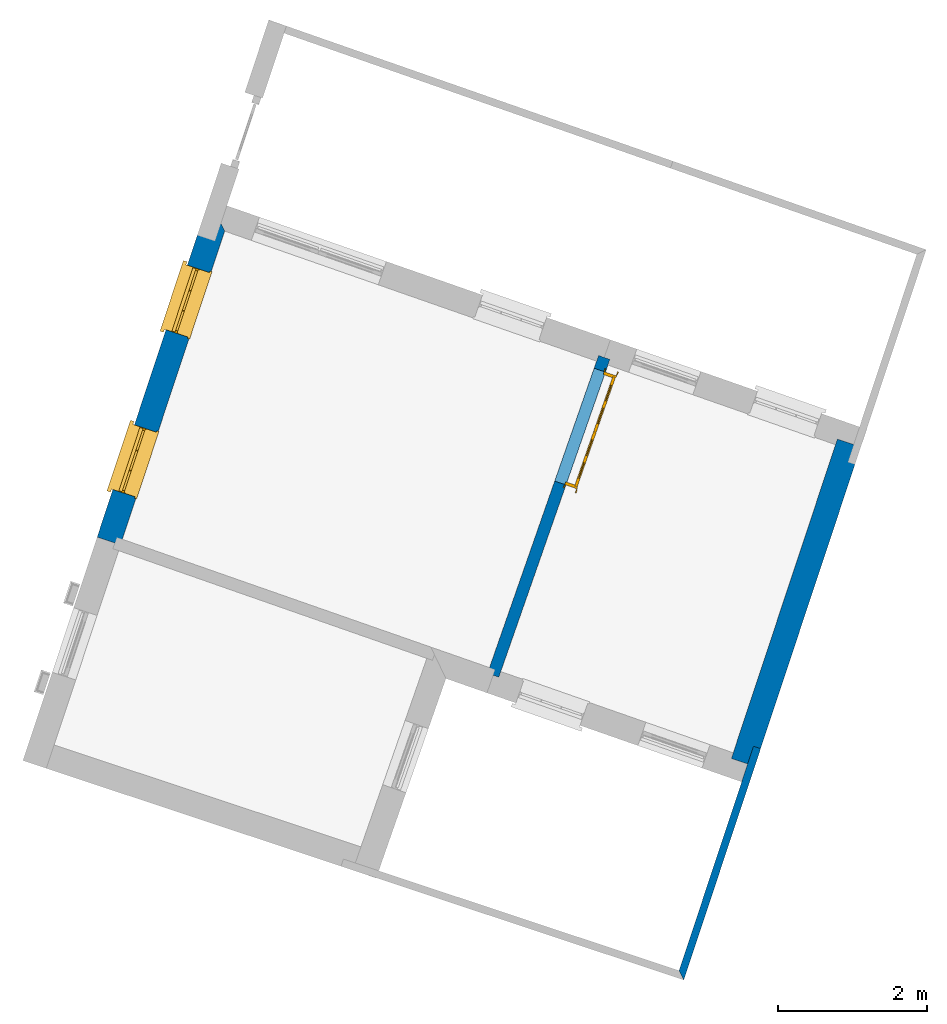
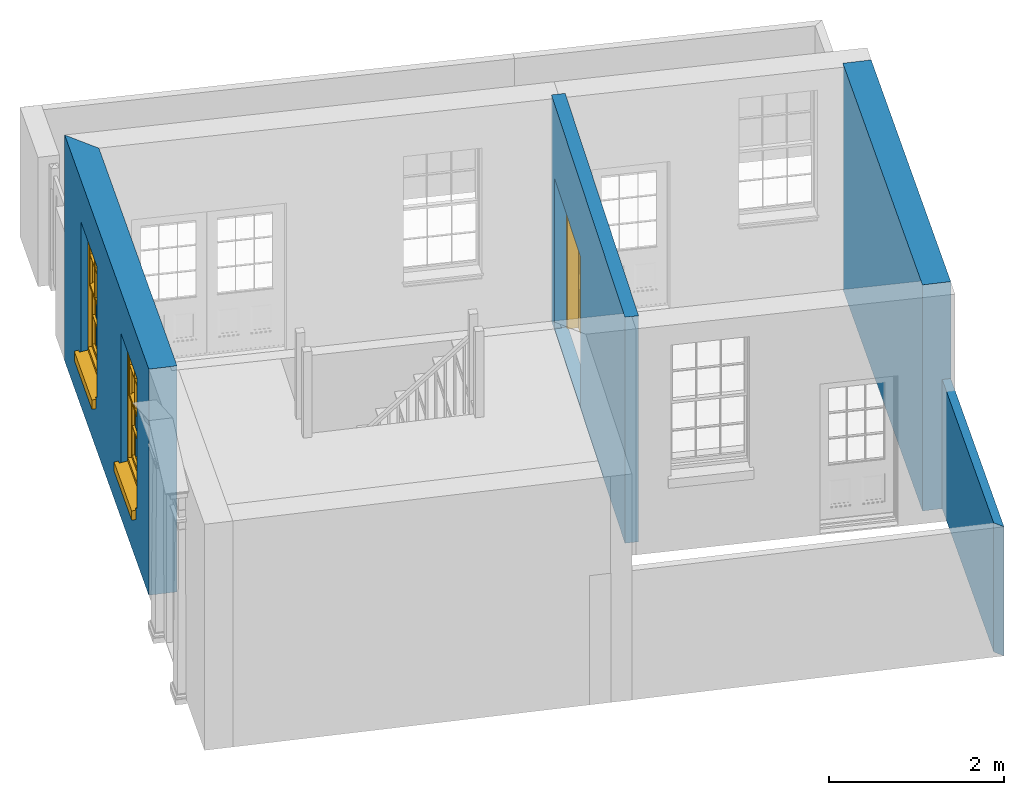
# One storey, part 4 of 10: 4 walls, 2 windows, 1 door, 3 openings.
"""IFC4 building model written with IfcOpenShell, lengths in metres."""

from ifc_helpers import new_model, si_unit, frame, origin, origin_with_axes, place, context, subcontext, project, spatial, polyline, outline, extrude, faceted_brep, source, transform, mapped, material, layer, layer_set, layer_usage, type_object, type_shapes, element, fill, save


model = new_model("IFC4")

# Units and contexts
model_context = context("Model", 3, world=origin_with_axes())
body_context = subcontext(model_context, "Body", "Model", "MODEL_VIEW")
ifc_project = project(units=[si_unit("PLANEANGLEUNIT", "RADIAN"), si_unit("MASSUNIT", "GRAM", prefix="KILO"), si_unit("FORCEUNIT", "NEWTON", prefix="KILO"), si_unit("LENGTHUNIT", "METRE"), si_unit("AREAUNIT", "SQUARE_METRE"), si_unit("VOLUMEUNIT", "CUBIC_METRE")], contexts=[model_context, model_context])

# Sites, building, storey
site_1_placement = place(None, origin_with_axes())
site_1 = spatial("IfcSite", under=ifc_project, at=site_1_placement, Name="Tamar")
site_2_placement = place(site_1_placement, origin_with_axes())
site_2 = spatial("IfcSite", under=site_1, at=site_2_placement, Name="Site plot-15", CompositionType="ELEMENT")
building_placement = place(None, origin_with_axes())
building = spatial("IfcBuilding", under=site_2, at=building_placement, Name="Building plot-15", CompositionType="ELEMENT")
storey_placement = place(None, frame((0.0, 0.0, 26.8), z_axis=(0.0, 0.0, 1.0), x_axis=(1.0, 0.0, 0.0)))
storey = spatial("IfcBuildingStorey", under=building, at=storey_placement, Name="plot-15 0", CompositionType="ELEMENT", Elevation=26.8)

# Wall, openings, windows
ifc_material_1 = material(Name="Masonry")
ifc_layer_1 = layer(ifc_material_1, 0.33, ventilated=False)
ifc_layer_set_1 = layer_set([ifc_layer_1], Name="exterior_0.08_0.25")
ifc_layer_usage_1 = layer_usage(ifc_layer_set_1, "AXIS2", "POSITIVE", -0.25)
wall_type_1 = type_object("IfcWallType", Name="exterior_0.08_0.25", PredefinedType="SOLIDWALL", material=ifc_layer_set_1)
wall_1_placement = place(storey_placement, frame((258.652212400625, 311.019566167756, 0.0), z_axis=(0.0, 0.0, 1.0), x_axis=(-0.315038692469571, -0.949078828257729, 0.0)))
wall_1 = element("IfcWall", 1, at=wall_1_placement, inside=storey, type_object=wall_type_1, material=ifc_layer_usage_1, Name="exterior", context=body_context, shape_type="SweptSolid", body=[
    extrude(outline(polyline([(0.0812747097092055, 0.0799999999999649), (-0.253983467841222, -0.25000000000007), (4.50469940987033, -0.250000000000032), (4.50469940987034, 0.079999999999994), (0.0812747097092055, 0.0799999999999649)])), origin_with_axes(), (0.0, 0.0, 1.0), 3.15),
])
opening_1_placement = place(wall_1_placement, frame((0.671174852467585, 0.0, 0.75)))
opening_1 = element("IfcOpeningElement", 2, at=opening_1_placement, cuts=wall_1, Name="My Opening", ObjectType="Opening", context=body_context, shape_type="SweptSolid", body=[
    extrude(outline(polyline([(0.0, -0.269999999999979), (0.910000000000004, -0.26999999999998), (0.909999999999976, 1.10000000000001), (-2.74225087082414e-14, 1.10000000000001), (0.0, -0.269999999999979)])), origin_with_axes(), (0.0, 0.0, 1.0), 1.82),
])
opening_2_placement = place(wall_1_placement, frame((2.92352455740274, 0.0, 0.75)))
opening_2 = element("IfcOpeningElement", 3, at=opening_2_placement, cuts=wall_1, Name="My Opening", ObjectType="Opening", context=body_context, shape_type="SweptSolid", body=[
    extrude(outline(polyline([(0.0, -0.270000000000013), (0.910000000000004, -0.270000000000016), (0.909999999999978, 1.09999999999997), (-2.70894418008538e-14, 1.09999999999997), (0.0, -0.270000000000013)])), origin_with_axes(), (0.0, 0.0, 1.0), 1.82),
])
window_type = type_object("IfcWindowType", Name="sash_big", PartitioningType="DOUBLE_PANEL_HORIZONTAL", PredefinedType="NOTDEFINED")
shared_shape_1 = source(origin(), body_context, "Body", "Brep", [
    faceted_brep([(0.033125, 0.145, 0.975209), (0.01, 0.145, 0.975209), (0.033125, 0.145, 1.376042), (0.876875, 0.145, 0.975209), (0.876875, 0.145, 1.376042), (0.9, 0.145, 0.975209), (0.876875, 0.145, 1.386042), (0.876875, 0.145, 1.786875), (0.9, 0.145, 1.81), (0.033125, 0.145, 1.786875), (0.033125, 0.145, 1.386042), (0.01, 0.145, 1.81), (0.876875, 0.115, 1.376042), (0.876875, 0.115, 0.975209), (0.9, 0.115, 0.937083), (0.033125, 0.115, 1.786875), (0.01, 0.115, 1.81), (0.033125, 0.115, 1.386042), (0.01, 0.115, 0.937083), (0.033125, 0.115, 0.975209), (0.033125, 0.115, 1.376042), (0.876875, 0.115, 1.786875), (0.876875, 0.115, 1.386042), (0.9, 0.115, 1.81), (0.033125, 0.145, 0.937083), (0.01, 0.145, 0.937083), (0.033125, 0.145, 0.53625), (0.876875, 0.145, 0.937083), (0.876875, 0.145, 0.53625), (0.9, 0.145, 0.937083), (0.876875, 0.145, 0.52625), (0.876875, 0.145, 0.125417), (0.9, 0.145, 0.077167), (0.033125, 0.145, 0.125417), (0.033125, 0.145, 0.52625), (0.01, 0.145, 0.077167), (-0.0425, 0.0, 0.01), (-0.0425, -0.05, 0.001667), (0.0, 0.0, 0.01), (0.9525, 0.0, 0.01), (0.91, 0.0, 0.01), (0.9525, -0.05, 0.001667), (-0.02, 0.33, 0.077167), (0.0, 0.33, 0.077167), (-0.02, 0.36, 0.077167), (0.0, 0.19, 0.077167), (0.01, 0.19, 0.077167), (0.91, 0.19, 0.077167), (0.91, 0.33, 0.077167), (0.9, 0.19, 0.077167), (0.93, 0.33, 0.077167), (0.93, 0.36, 0.077167), (0.01, 0.175, 0.975209), (0.9, 0.175, 0.975209), (0.876875, 0.175, 0.125417), (0.876875, 0.175, 0.52625), (0.9, 0.175, 0.077167), (0.876875, 0.175, 0.53625), (0.876875, 0.175, 0.937083), (0.033125, 0.175, 0.125417), (0.01, 0.175, 0.077167), (0.033125, 0.175, 0.52625), (0.033125, 0.175, 0.937083), (0.033125, 0.175, 0.53625), (-0.02, 0.33, 0.052167), (-0.02, 0.36, 0.052167), (0.93, 0.36, 0.052167), (0.93, 0.33, 0.052167), (0.91, 0.33, 0.052167), (0.0, 0.33, 0.052167), (0.91, 0.1, 0.026667), (0.0, 0.1, 0.026667), (-0.0425, -0.05, -0.123333), (0.9525, -0.05, -0.123333), (-0.0425, 0.0, -0.123333), (0.9525, 0.0, -0.123333), (0.01, 0.19, 1.81), (0.9, 0.19, 1.81), (0.0, 0.19, 1.82), (0.91, 0.19, 1.82), (0.01, 0.1, 0.077167), (0.9, 0.1, 0.077167), (0.592292, 0.145, 0.125417), (0.592292, 0.175, 0.125417), (0.317708, 0.175, 0.125417), (0.317708, 0.145, 0.125417), (0.592292, 0.145, 0.53625), (0.317708, 0.145, 0.53625), (0.317708, 0.145, 0.52625), (0.592292, 0.145, 0.52625), (0.592292, 0.175, 0.53625), (0.317708, 0.175, 0.53625), (0.592292, 0.115, 1.386042), (0.592292, 0.145, 1.386042), (0.317708, 0.145, 1.386042), (0.317708, 0.115, 1.386042), (0.317708, 0.115, 1.376042), (0.592292, 0.115, 1.376042), (0.317708, 0.145, 1.376042), (0.592292, 0.145, 1.376042), (0.602292, 0.115, 1.376042), (0.592292, 0.115, 0.975209), (0.602292, 0.115, 0.975209), (0.602292, 0.145, 0.975209), (0.592292, 0.145, 0.975209), (0.602292, 0.145, 1.376042), (0.602292, 0.175, 0.53625), (0.602292, 0.145, 0.53625), (0.317708, 0.175, 0.52625), (0.307708, 0.175, 0.125417), (0.307708, 0.175, 0.52625), (0.602292, 0.175, 0.52625), (0.602292, 0.175, 0.125417), (0.592292, 0.175, 0.52625), (0.307708, 0.175, 0.53625), (0.317708, 0.175, 0.937083), (0.307708, 0.175, 0.937083), (0.602292, 0.175, 0.937083), (0.592292, 0.175, 0.937083), (0.307708, 0.145, 0.52625), (0.307708, 0.145, 0.125417), (0.307708, 0.145, 0.53625), (0.307708, 0.145, 0.937083), (0.592292, 0.145, 0.937083), (0.317708, 0.145, 0.937083), (0.602292, 0.145, 0.937083), (0.602292, 0.145, 0.52625), (0.602292, 0.145, 0.125417), (0.307708, 0.115, 1.386042), (0.307708, 0.115, 1.376042), (0.307708, 0.115, 0.975209), (0.317708, 0.115, 0.975209), (0.317708, 0.115, 1.786875), (0.307708, 0.115, 1.786875), (0.602292, 0.115, 1.786875), (0.592292, 0.115, 1.786875), (0.602292, 0.115, 1.386042), (0.602292, 0.145, 1.386042), (0.307708, 0.145, 1.386042), (0.307708, 0.145, 1.786875), (0.317708, 0.145, 1.786875), (0.592292, 0.145, 1.786875), (0.602292, 0.145, 1.786875), (0.307708, 0.145, 1.376042), (0.317708, 0.145, 0.975209), (0.307708, 0.145, 0.975209), (0.91, 0.1, 1.82), (0.9, 0.1, 1.81), (0.01, 0.1, 1.81), (0.0, 0.1, 1.82), (0.91, 0.0, 0.0), (0.0, 0.0, 0.0), (0.91, 0.33, 0.0), (0.0, 0.33, 0.0)], [[[0, 1, 2]], [[3, 4, 5]], [[6, 7, 8]], [[9, 10, 11]], [[12, 13, 14]], [[15, 16, 17]], [[18, 19, 20]], [[21, 22, 23]], [[24, 25, 26]], [[27, 28, 29]], [[30, 31, 32]], [[33, 34, 35]], [[14, 27, 29]], [[25, 24, 18]], [[36, 37, 38]], [[39, 40, 41]], [[42, 43, 44]], [[45, 46, 43]], [[47, 48, 49]], [[50, 51, 48]], [[1, 0, 52]], [[5, 53, 3]], [[54, 55, 56]], [[57, 58, 53]], [[59, 60, 61]], [[62, 63, 52]], [[48, 43, 46, 49]], [[51, 44, 43, 48]], [[64, 42, 44, 65]], [[65, 44, 51, 66]], [[66, 51, 50, 67]], [[65, 66, 68, 69]], [[60, 56, 49, 46]], [[70, 71, 38, 40]], [[37, 41, 40, 38]], [[37, 72, 73, 41]], [[74, 75, 73, 72]], [[8, 11, 76, 77]], [[76, 78, 79, 77]], [[32, 35, 80, 81]], [[81, 80, 71, 70]], [[82, 83, 84, 85]], [[86, 87, 88, 89]], [[86, 90, 91, 87]], [[92, 93, 94, 95]], [[92, 95, 96, 97]], [[96, 98, 99, 97]], [[100, 97, 101, 102]], [[103, 104, 99, 105]], [[97, 99, 104, 101]], [[102, 103, 105, 100]], [[28, 57, 106, 107]], [[108, 84, 109, 110]], [[111, 112, 83, 113]], [[114, 110, 61, 63]], [[90, 113, 108, 91]], [[115, 91, 114, 116]], [[117, 106, 90, 118]], [[111, 106, 57, 55]], [[119, 110, 109, 120]], [[34, 61, 110, 119]], [[89, 113, 83, 82]], [[88, 108, 113, 89]], [[85, 84, 108, 88]], [[121, 114, 63, 26]], [[122, 116, 114, 121]], [[123, 118, 90, 86]], [[87, 91, 115, 124]], [[107, 106, 117, 125]], [[126, 111, 55, 30]], [[127, 112, 111, 126]], [[126, 30, 28, 107]], [[88, 119, 120, 85]], [[126, 89, 82, 127]], [[125, 123, 86, 107]], [[121, 26, 34, 119]], [[124, 122, 121, 87]], [[128, 17, 20, 129]], [[96, 129, 130, 131]], [[132, 133, 128, 95]], [[134, 135, 92, 136]], [[100, 12, 22, 136]], [[137, 6, 4, 105]], [[94, 138, 139, 140]], [[137, 93, 141, 142]], [[99, 98, 94, 93]], [[143, 2, 10, 138]], [[144, 145, 143, 98]], [[129, 143, 145, 130]], [[20, 2, 143, 129]], [[131, 144, 98, 96]], [[128, 138, 10, 17]], [[133, 139, 138, 128]], [[135, 141, 93, 92]], [[95, 94, 140, 132]], [[22, 6, 137, 136]], [[136, 137, 142, 134]], [[100, 105, 4, 12]], [[107, 86, 89, 126]], [[106, 111, 113, 90]], [[91, 108, 110, 114]], [[87, 121, 119, 88]], [[97, 100, 136, 92]], [[129, 96, 95, 128]], [[98, 143, 138, 94]], [[105, 99, 93, 137]], [[131, 101, 104, 144]], [[124, 115, 118, 123]], [[132, 140, 141, 135]], [[120, 109, 59, 33]], [[15, 9, 139, 133]], [[134, 142, 7, 21]], [[31, 54, 112, 127]], [[36, 74, 72, 37]], [[39, 41, 73, 75]], [[18, 14, 101, 131]], [[23, 16, 132, 135]], [[83, 56, 60, 84]], [[52, 53, 118, 115]], [[53, 52, 144, 104]], [[11, 8, 141, 140]], [[14, 18, 124, 123]], [[2, 1, 11, 10]], [[8, 5, 4, 6]], [[57, 53, 56, 55]], [[60, 52, 63, 61]], [[26, 25, 35, 34]], [[32, 29, 28, 30]], [[14, 23, 22, 12]], [[18, 20, 17, 16]], [[19, 0, 2, 20]], [[17, 10, 9, 15]], [[12, 4, 3, 13]], [[21, 7, 6, 22]], [[27, 58, 57, 28]], [[30, 55, 54, 31]], [[33, 59, 61, 34]], [[26, 63, 62, 24]], [[5, 8, 77, 53]], [[76, 11, 1, 52]], [[46, 45, 78, 76]], [[49, 77, 79, 47]], [[70, 146, 147, 81]], [[71, 80, 148, 149]], [[19, 130, 145, 0]], [[102, 13, 3, 103]], [[116, 122, 24, 62]], [[29, 32, 81, 14]], [[80, 35, 25, 18]], [[60, 46, 76, 52]], [[77, 49, 56, 53]], [[23, 14, 81, 147]], [[16, 148, 80, 18]], [[35, 85, 120]], [[120, 33, 35]], [[127, 82, 32]], [[32, 31, 127]], [[32, 82, 85, 35]], [[102, 101, 14]], [[14, 13, 102]], [[18, 131, 130]], [[130, 19, 18]], [[134, 21, 23]], [[23, 135, 134]], [[16, 15, 133]], [[133, 132, 16]], [[11, 140, 139]], [[139, 9, 11]], [[142, 141, 8]], [[8, 7, 142]], [[23, 147, 148, 16]], [[146, 149, 148, 147]], [[52, 115, 116]], [[116, 62, 52]], [[118, 53, 117]], [[58, 117, 53]], [[27, 125, 117, 58]], [[56, 83, 112]], [[112, 54, 56]], [[109, 84, 60]], [[60, 59, 109]], [[125, 27, 14]], [[14, 123, 125]], [[122, 124, 18]], [[18, 24, 122]], [[145, 144, 52]], [[52, 0, 145]], [[103, 3, 53]], [[53, 104, 103]], [[79, 78, 149, 146]], [[78, 45, 71, 149]], [[146, 70, 47, 79]], [[150, 75, 74, 151]], [[68, 66, 67]], [[48, 68, 67, 50]], [[69, 64, 65]], [[42, 64, 69, 43]], [[69, 68, 152, 153]], [[70, 68, 48, 47]], [[150, 152, 68, 70]], [[43, 69, 71, 45]], [[69, 153, 151, 71]], [[152, 150, 151, 153]], [[38, 151, 74, 36]], [[71, 151, 38]], [[39, 75, 150, 40]], [[40, 150, 70]]]),
])
type_shapes(window_type, [shared_shape_1])
window_1_placement = place(storey_placement, frame((258.184515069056, 310.467628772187, 0.75), z_axis=(0.0, 0.0, 1.0), x_axis=(-0.286685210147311, -0.863661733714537, 0.0)))
window_1 = element("IfcWindow", 4, at=window_1_placement, inside=storey, type_object=window_type, Name="living street window", OverallHeight=1.82, OverallWidth=0.91, context=body_context, shape_type="MappedRepresentation", body=[
    mapped(shared_shape_1, transform((0.0, 0.0, 0.0), scale=1.0)),
])
fill(opening_1, window_1)
window_2_placement = place(storey_placement, frame((257.474937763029, 308.3299713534, 0.75), z_axis=(0.0, 0.0, 1.0), x_axis=(-0.286685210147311, -0.863661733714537, 0.0)))
window_2 = element("IfcWindow", 5, at=window_2_placement, inside=storey, type_object=window_type, Name="living street window", OverallHeight=1.82, OverallWidth=0.91, context=body_context, shape_type="MappedRepresentation", body=[
    mapped(shared_shape_1, transform((0.0, 0.0, 0.0), scale=1.0)),
])
fill(opening_2, window_2)

# Wall
ifc_material_2 = material(Name="Masonry")
ifc_layer_2 = layer(ifc_material_2, 0.33, ventilated=False)
ifc_layer_set_2 = layer_set([ifc_layer_2], Name="party_0.08_0.25")
ifc_layer_usage_2 = layer_usage(ifc_layer_set_2, "AXIS2", "POSITIVE", -0.25)
wall_type_2 = type_object("IfcWallType", Name="party_0.08_0.25", PredefinedType="SOLIDWALL", material=ifc_layer_set_2)
wall_2_placement = place(storey_placement, frame((265.557197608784, 303.834257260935, 0.0), z_axis=(0.0, 0.0, 1.0), x_axis=(0.315038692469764, 0.949078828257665, 0.0)))
element("IfcWall", 6, at=wall_2_placement, inside=storey, type_object=wall_type_2, material=ifc_layer_usage_2, Name="party", context=body_context, shape_type="SweptSolid", body=[
    extrude(outline(polyline([(-2.19153448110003e-14, 0.0799999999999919), (1.68351869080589e-14, -0.249999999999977), (4.50469940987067, -0.249999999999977), (4.50469940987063, 0.0799999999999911), (-2.19153448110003e-14, 0.0799999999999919)])), origin_with_axes(), (0.0, 0.0, 1.0), 3.15),
])

# Wall, opening, door
ifc_material_3 = material(Name="Masonry")
ifc_layer_3 = layer(ifc_material_3, 0.16, ventilated=False)
ifc_layer_set_3 = layer_set([ifc_layer_3], Name="interior_0.08_0.08")
ifc_layer_usage_3 = layer_usage(ifc_layer_set_3, "AXIS2", "POSITIVE", -0.08)
wall_type_3 = type_object("IfcWallType", Name="interior_0.08_0.08", PredefinedType="SOLIDWALL", material=ifc_layer_set_3)
wall_3_placement = place(storey_placement, frame((263.78081158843, 309.226685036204, 0.0), z_axis=(0.0, 0.0, 1.0), x_axis=(-0.330001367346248, -0.943980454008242, 0.0)))
wall_3 = element("IfcWall", 7, at=wall_3_placement, inside=storey, type_object=wall_type_3, material=ifc_layer_usage_3, Name="interior", context=body_context, shape_type="SweptSolid", body=[
    extrude(outline(polyline([(-1.07438910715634e-14, 0.0799999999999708), (1.07340938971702e-14, -0.0799999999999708), (4.50413660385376, -0.0799999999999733), (4.50413660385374, 0.0799999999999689), (-1.07438910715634e-14, 0.0799999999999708)])), origin_with_axes(), (0.0, 0.0, 1.0), 3.15),
])
opening_3_placement = place(wall_3_placement, frame((0.179999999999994, 0.0, 0.0199999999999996)))
opening_3 = element("IfcOpeningElement", 8, at=opening_3_placement, cuts=wall_3, Name="My Opening", ObjectType="Opening", context=body_context, shape_type="SweptSolid", body=[
    extrude(outline(polyline([(0.0, -0.100000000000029), (1.59999999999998, -0.10000000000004), (1.60000000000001, 1.10000000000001), (2.9920510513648e-14, 1.10000000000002), (0.0, -0.100000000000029)])), origin_with_axes(), (0.0, 0.0, 1.0), 2.1),
])
door_type = type_object("IfcDoorType", Name="door_inside_double", OperationType="SINGLE_SWING_LEFT", PredefinedType="NOTDEFINED")
shared_shape_2 = source(origin(), body_context, "Body", "Brep", [
    faceted_brep([(0.14, 0.307, 1.895), (0.14, 0.307, 0.82), (0.363, 0.307, 0.82), (0.363, 0.307, 1.895), (0.14, 0.292, 1.895), (0.14, 0.292, 0.82), (0.363, 0.292, 0.82), (0.363, 0.292, 1.895), (0.027, 0.292, 1.895), (0.027, 0.292, 0.82), (0.363, 0.292, 0.62), (0.14, 0.292, 0.62), (0.463, 0.292, 0.82), (0.463, 0.292, 1.895), (0.363, 0.292, 2.073), (0.14, 0.292, 2.073), (0.027, 0.292, 2.073), (0.027, 0.33, 1.895), (0.027, 0.33, 0.82), (0.027, 0.292, 0.62), (0.463, 0.292, 0.62), (0.14, 0.307, 0.62), (0.363, 0.307, 0.62), (0.463, 0.307, 0.82), (0.463, 0.307, 1.895), (0.463, 0.292, 2.073), (0.14, 0.33, 2.073), (0.363, 0.33, 2.073), (0.027, 0.33, 2.073), (0.14, 0.33, 1.895), (0.14, 0.33, 0.82), (0.027, 0.33, 0.62), (0.027, 0.292, 0.225), (0.14, 0.292, 0.225), (0.363, 0.292, 0.225), (0.463, 0.292, 0.225), (0.686, 0.292, 0.62), (0.686, 0.292, 0.82), (0.14, 0.307, 0.225), (0.363, 0.307, 0.225), (0.686, 0.307, 0.82), (0.686, 0.307, 1.895), (0.686, 0.292, 1.895), (0.686, 0.292, 2.073), (0.463, 0.33, 2.073), (0.363, 0.33, 1.895), (0.14, 0.315, 1.895), (0.14, 0.315, 0.82), (0.14, 0.33, 0.62), (0.027, 0.33, 0.225), (0.027, 0.292, 0.0), (0.14, 0.292, 0.0), (0.363, 0.292, 0.0), (0.463, 0.292, 0.0), (0.463, 0.307, 0.225), (0.463, 0.307, 0.62), (0.686, 0.307, 0.62), (0.799, 0.292, 0.62), (0.799, 0.292, 0.82), (0.799, 0.292, 1.895), (0.799, 0.292, 2.073), (0.686, 0.33, 2.073), (0.463, 0.33, 1.895), (0.363, 0.315, 1.895), (0.363, 0.315, 0.82), (0.363, 0.33, 0.82), (0.363, 0.33, 0.62), (0.14, 0.33, 0.225), (0.027, 0.33, 0.0), (0.14, 0.33, 0.0), (0.363, 0.33, 0.0), (0.463, 0.33, 0.0), (0.686, 0.292, 0.0), (0.686, 0.292, 0.225), (0.686, 0.307, 0.225), (0.799, 0.292, 0.225), (0.799, 0.33, 0.62), (0.799, 0.33, 0.82), (0.799, 0.33, 1.895), (0.799, 0.33, 2.073), (0.686, 0.33, 1.895), (0.463, 0.33, 0.82), (0.463, 0.33, 0.62), (0.363, 0.315, 0.62), (0.14, 0.315, 0.62), (0.14, 0.315, 0.225), (0.363, 0.33, 0.225), (0.463, 0.33, 0.225), (0.686, 0.33, 0.0), (0.799, 0.292, 0.0), (0.799, 0.33, 0.225), (0.686, 0.33, 0.62), (0.686, 0.33, 0.82), (0.686, 0.315, 1.895), (0.463, 0.315, 1.895), (0.463, 0.315, 0.82), (0.363, 0.315, 0.225), (0.686, 0.33, 0.225), (0.799, 0.33, 0.0), (0.686, 0.315, 0.82), (0.463, 0.315, 0.62), (0.463, 0.315, 0.225), (0.686, 0.315, 0.62), (0.686, 0.315, 0.225), (1.46, 0.33, 1.895), (1.237, 0.33, 1.895), (1.237, 0.33, 2.073), (1.46, 0.33, 2.073), (1.46, 0.315, 1.895), (1.237, 0.315, 1.895), (1.137, 0.33, 1.895), (1.137, 0.33, 2.073), (1.237, 0.292, 2.073), (1.46, 0.292, 2.073), (1.573, 0.33, 1.895), (1.573, 0.33, 2.073), (1.46, 0.33, 0.82), (1.46, 0.315, 0.82), (1.237, 0.315, 0.82), (1.237, 0.33, 0.82), (1.137, 0.33, 0.82), (0.914, 0.33, 2.073), (0.914, 0.33, 1.895), (1.137, 0.292, 2.073), (1.237, 0.292, 1.895), (1.46, 0.292, 1.895), (1.573, 0.292, 2.073), (1.573, 0.33, 0.82), (1.573, 0.292, 1.895), (1.237, 0.33, 0.62), (1.137, 0.33, 0.62), (1.137, 0.315, 0.82), (1.137, 0.315, 1.895), (0.914, 0.292, 2.073), (0.914, 0.315, 1.895), (0.801, 0.33, 2.073), (0.801, 0.33, 1.895), (1.137, 0.292, 1.895), (1.237, 0.307, 1.895), (1.46, 0.307, 1.895), (1.573, 0.292, 0.82), (1.573, 0.33, 0.62), (1.46, 0.33, 0.62), (1.237, 0.33, 0.225), (1.137, 0.33, 0.225), (0.914, 0.33, 0.82), (0.914, 0.33, 0.62), (0.914, 0.315, 0.82), (0.801, 0.292, 2.073), (0.914, 0.292, 1.895), (0.801, 0.33, 0.82), (0.801, 0.292, 1.895), (1.137, 0.292, 0.82), (1.237, 0.292, 0.82), (1.237, 0.307, 0.82), (1.46, 0.307, 0.82), (1.46, 0.292, 0.82), (1.573, 0.292, 0.62), (1.573, 0.33, 0.225), (1.46, 0.33, 0.225), (1.46, 0.315, 0.62), (1.237, 0.315, 0.62), (1.237, 0.33, 0.0), (1.137, 0.33, 0.0), (1.137, 0.315, 0.225), (1.137, 0.315, 0.62), (1.237, 0.315, 0.225), (0.914, 0.315, 0.62), (0.801, 0.33, 0.62), (0.914, 0.307, 1.895), (1.137, 0.307, 1.895), (0.801, 0.292, 0.82), (1.137, 0.292, 0.62), (1.237, 0.292, 0.62), (1.137, 0.307, 0.82), (1.46, 0.292, 0.62), (1.573, 0.292, 0.225), (1.573, 0.33, 0.0), (1.46, 0.33, 0.0), (1.46, 0.315, 0.225), (1.237, 0.292, 0.0), (1.137, 0.292, 0.0), (0.914, 0.33, 0.225), (0.914, 0.33, 0.0), (0.914, 0.315, 0.225), (0.801, 0.33, 0.225), (0.801, 0.292, 0.62), (0.914, 0.292, 0.82), (0.914, 0.307, 0.82), (1.137, 0.292, 0.225), (1.237, 0.292, 0.225), (0.914, 0.292, 0.62), (1.46, 0.292, 0.225), (1.573, 0.292, 0.0), (1.46, 0.292, 0.0), (0.914, 0.292, 0.0), (0.801, 0.33, 0.0), (0.801, 0.292, 0.225), (1.237, 0.307, 0.225), (1.237, 0.307, 0.62), (1.137, 0.307, 0.62), (1.137, 0.307, 0.225), (1.46, 0.307, 0.62), (0.914, 0.307, 0.62), (1.46, 0.307, 0.225), (0.914, 0.292, 0.225), (0.801, 0.292, 0.0), (0.914, 0.307, 0.225), (0.02, 0.335, 0.0), (0.005, 0.34, 0.0), (0.005, 0.34, 2.095), (0.02, 0.335, 2.08), (0.02, 0.33, 0.0), (0.0, 0.335, 0.0), (0.0, 0.335, 2.1), (1.595, 0.34, 2.095), (1.58, 0.335, 2.08), (0.02, 0.33, 2.08), (0.0, 0.33, 0.0), (-0.032, 0.345, 0.0), (-0.032, 0.345, 2.132), (1.6, 0.335, 2.1), (1.595, 0.34, 0.0), (1.58, 0.335, 0.0), (1.58, 0.33, 2.08), (0.025, 0.33, 0.0), (0.025, 0.33, 2.075), (-0.04, 0.34, 0.0), (0.025, 0.29, 0.0), (0.0, 0.17, 0.0), (-0.04, 0.34, 2.14), (1.632, 0.345, 2.132), (1.6, 0.335, 0.0), (1.58, 0.33, 0.0), (1.575, 0.33, 2.075), (0.025, 0.29, 2.075), (-0.06, 0.33, 0.0), (0.035, 0.17, 0.0), (0.0, 0.17, 2.1), (0.0, 0.33, 2.1), (-0.04, 0.345, 0.0), (-0.04, 0.345, 2.14), (1.64, 0.34, 2.14), (1.632, 0.345, 0.0), (1.6, 0.33, 0.0), (1.575, 0.33, 0.0), (1.575, 0.29, 2.075), (0.04, 0.29, 0.0), (0.04, 0.29, 2.06), (-0.06, 0.345, 0.0), (-0.06, 0.33, 2.16), (0.015, 0.165, 0.0), (0.04, 0.17, 0.0), (-0.045, 0.17, 2.145), (-0.045, 0.17, 0.0), (1.6, 0.17, 2.1), (1.6, 0.33, 2.1), (-0.06, 0.345, 2.16), (1.64, 0.345, 2.14), (1.64, 0.34, 0.0), (1.6, 0.17, 0.0), (1.575, 0.29, 0.0), (1.56, 0.29, 2.06), (0.04, 0.17, 2.06), (1.66, 0.33, 2.16), (-0.017, 0.155, 0.0), (-0.025, 0.16, 0.0), (0.02, 0.16, 0.0), (0.035, 0.165, 0.0), (0.035, 0.17, 2.065), (1.645, 0.17, 2.145), (-0.045, 0.155, 2.145), (-0.045, 0.155, 0.0), (1.66, 0.345, 2.16), (1.64, 0.345, 0.0), (1.66, 0.33, 0.0), (1.565, 0.17, 0.0), (1.56, 0.29, 0.0), (1.56, 0.17, 2.06), (-0.017, 0.155, 2.117), (-0.025, 0.16, 2.125), (0.015, 0.165, 2.085), (0.02, 0.16, 2.08), (0.035, 0.165, 2.065), (1.565, 0.17, 2.065), (1.645, 0.17, 0.0), (1.645, 0.155, 2.145), (-0.025, 0.155, 0.0), (1.66, 0.345, 0.0), (1.585, 0.165, 0.0), (1.56, 0.17, 0.0), (1.617, 0.155, 2.117), (1.625, 0.16, 2.125), (-0.025, 0.155, 2.125), (1.585, 0.165, 2.085), (1.58, 0.16, 2.08), (1.565, 0.165, 2.065), (1.625, 0.16, 0.0), (1.645, 0.155, 0.0), (1.625, 0.155, 2.125), (1.617, 0.155, 0.0), (1.565, 0.165, 0.0), (1.58, 0.16, 0.0), (1.625, 0.155, 0.0)], [[[0, 1, 2, 3]], [[1, 0, 4, 5]], [[2, 1, 5, 6]], [[6, 7, 3, 2]], [[7, 4, 0, 3]], [[4, 8, 9, 5]], [[10, 6, 5, 11]], [[6, 12, 13, 7]], [[14, 15, 4, 7]], [[15, 16, 8, 4]], [[9, 8, 17, 18]], [[5, 9, 19, 11]], [[10, 20, 12, 6]], [[10, 11, 21, 22]], [[13, 12, 23, 24]], [[7, 13, 25, 14]], [[26, 15, 14, 27]], [[28, 16, 15, 26]], [[8, 16, 28, 17]], [[17, 29, 30, 18]], [[18, 31, 19, 9]], [[11, 19, 32, 33]], [[34, 35, 20, 10]], [[20, 36, 37, 12]], [[11, 33, 38, 21]], [[39, 22, 21, 38]], [[34, 10, 22, 39]], [[12, 37, 40, 23]], [[24, 23, 40, 41]], [[42, 13, 24, 41]], [[13, 42, 43, 25]], [[14, 25, 44, 27]], [[26, 27, 45, 29]], [[28, 26, 29, 17]], [[30, 29, 46, 47]], [[18, 30, 48, 31]], [[31, 49, 32, 19]], [[33, 32, 50, 51]], [[52, 53, 35, 34]], [[20, 35, 54, 55]], [[36, 20, 55, 56]], [[36, 57, 58, 37]], [[33, 34, 39, 38]], [[37, 42, 41, 40]], [[42, 59, 60, 43]], [[44, 25, 43, 61]], [[62, 45, 27, 44]], [[29, 45, 63, 46]], [[46, 63, 64, 47]], [[65, 30, 47, 64]], [[30, 65, 66, 48]], [[31, 48, 67, 49]], [[68, 50, 32, 49]], [[68, 69, 51, 50]], [[34, 33, 51, 52]], [[53, 52, 70, 71]], [[53, 72, 73, 35]], [[35, 73, 74, 54]], [[55, 54, 74, 56]], [[73, 36, 56, 74]], [[73, 75, 57, 36]], [[57, 76, 77, 58]], [[37, 58, 59, 42]], [[78, 79, 60, 59]], [[60, 79, 61, 43]], [[80, 62, 44, 61]], [[81, 65, 45, 62]], [[45, 65, 64, 63]], [[82, 66, 65, 81]], [[48, 66, 83, 84]], [[67, 48, 84, 85]], [[49, 67, 69, 68]], [[52, 51, 69, 70]], [[71, 70, 86, 87]], [[72, 53, 71, 88]], [[72, 89, 75, 73]], [[75, 90, 76, 57]], [[76, 91, 92, 77]], [[78, 59, 58, 77]], [[78, 80, 61, 79]], [[62, 80, 93, 94]], [[81, 62, 94, 95]], [[87, 86, 66, 82]], [[91, 82, 81, 92]], [[66, 86, 96, 83]], [[84, 83, 96, 85]], [[86, 67, 85, 96]], [[67, 86, 70, 69]], [[88, 71, 87, 97]], [[89, 72, 88, 98]], [[89, 98, 90, 75]], [[90, 97, 91, 76]], [[80, 78, 77, 92]], [[80, 92, 99, 93]], [[99, 95, 94, 93]], [[92, 81, 95, 99]], [[87, 82, 100, 101]], [[82, 91, 102, 100]], [[97, 87, 101, 103]], [[98, 88, 97, 90]], [[91, 97, 103, 102]], [[103, 101, 100, 102]], [[104, 105, 106, 107]], [[105, 104, 108, 109]], [[105, 110, 111, 106]], [[106, 112, 113, 107]], [[114, 104, 107, 115]], [[104, 116, 117, 108]], [[117, 118, 109, 108]], [[119, 105, 109, 118]], [[119, 120, 110, 105]], [[121, 111, 110, 122]], [[123, 112, 106, 111]], [[124, 125, 113, 112]], [[126, 115, 107, 113]], [[104, 114, 127, 116]], [[114, 115, 126, 128]], [[116, 119, 118, 117]], [[129, 130, 120, 119]], [[110, 120, 131, 132]], [[121, 133, 123, 111]], [[122, 110, 132, 134]], [[135, 121, 122, 136]], [[137, 124, 112, 123]], [[125, 124, 138, 139]], [[125, 128, 126, 113]], [[114, 128, 140, 127]], [[141, 142, 116, 127]], [[142, 129, 119, 116]], [[143, 144, 130, 129]], [[145, 120, 130, 146]], [[120, 145, 147, 131]], [[134, 132, 131, 147]], [[135, 148, 133, 121]], [[123, 133, 149, 137]], [[145, 122, 134, 147]], [[136, 122, 145, 150]], [[151, 148, 135, 136]], [[152, 153, 124, 137]], [[124, 153, 154, 138]], [[138, 154, 155, 139]], [[156, 125, 139, 155]], [[156, 140, 128, 125]], [[157, 141, 127, 140]], [[158, 159, 142, 141]], [[129, 142, 160, 161]], [[162, 163, 144, 143]], [[130, 144, 164, 165]], [[143, 129, 161, 166]], [[146, 130, 165, 167]], [[150, 145, 146, 168]], [[133, 148, 151, 149]], [[137, 149, 169, 170]], [[171, 151, 136, 150]], [[172, 173, 153, 152]], [[152, 137, 170, 174]], [[153, 156, 155, 154]], [[175, 157, 140, 156]], [[176, 158, 141, 157]], [[177, 178, 159, 158]], [[142, 159, 179, 160]], [[179, 166, 161, 160]], [[180, 181, 163, 162]], [[182, 144, 163, 183]], [[178, 162, 143, 159]], [[144, 182, 184, 164]], [[167, 165, 164, 184]], [[159, 143, 166, 179]], [[182, 146, 167, 184]], [[168, 146, 182, 185]], [[150, 168, 186, 171]], [[149, 151, 171, 187]], [[149, 187, 188, 169]], [[169, 188, 174, 170]], [[189, 190, 173, 172]], [[173, 175, 156, 153]], [[172, 152, 187, 191]], [[187, 152, 174, 188]], [[192, 176, 157, 175]], [[193, 177, 158, 176]], [[193, 194, 178, 177]], [[181, 180, 190, 189]], [[181, 195, 183, 163]], [[194, 180, 162, 178]], [[185, 182, 183, 196]], [[168, 185, 197, 186]], [[187, 171, 186, 191]], [[173, 190, 198, 199]], [[189, 172, 200, 201]], [[175, 173, 199, 202]], [[172, 191, 203, 200]], [[194, 193, 176, 192]], [[192, 175, 202, 204]], [[180, 194, 192, 190]], [[189, 205, 195, 181]], [[196, 183, 195, 206]], [[196, 206, 197, 185]], [[191, 186, 197, 205]], [[190, 192, 204, 198]], [[199, 198, 204, 202]], [[201, 200, 203, 207]], [[205, 189, 201, 207]], [[191, 205, 207, 203]], [[205, 197, 206, 195]], [[208, 209, 210, 211]], [[208, 212, 213, 209]], [[209, 213, 214, 210]], [[211, 210, 215, 216]], [[211, 217, 212, 208]], [[218, 213, 212]], [[213, 219, 220, 214]], [[210, 214, 221, 215]], [[216, 215, 222, 223]], [[217, 211, 216, 224]], [[225, 212, 217, 226]], [[219, 213, 218, 227]], [[218, 212, 228, 229]], [[219, 227, 230, 220]], [[214, 220, 231, 221]], [[215, 221, 232, 222]], [[222, 232, 233, 223]], [[224, 216, 223, 233]], [[226, 217, 224, 234]], [[225, 228, 212]], [[235, 228, 225, 226]], [[236, 227, 218]], [[237, 229, 228]], [[229, 238, 239, 218]], [[227, 240, 241, 230]], [[220, 230, 242, 231]], [[221, 231, 243, 232]], [[244, 233, 232]], [[234, 224, 233, 245]], [[246, 235, 226, 234]], [[247, 228, 235, 248]], [[240, 227, 236, 249]], [[239, 250, 236, 218]], [[251, 229, 237]], [[252, 237, 228, 247]], [[253, 238, 229, 254]], [[238, 255, 256, 239]], [[241, 240, 257]], [[230, 241, 258, 242]], [[231, 242, 259, 243]], [[259, 244, 232, 243]], [[260, 261, 233, 244]], [[245, 233, 261]], [[261, 246, 234, 245]], [[248, 235, 246, 262]], [[248, 263, 252, 247]], [[250, 257, 249, 236]], [[240, 249, 257]], [[256, 264, 250, 239]], [[265, 266, 229, 251]], [[267, 251, 237, 268]], [[263, 269, 237, 252]], [[270, 255, 238, 253]], [[229, 266, 254]], [[271, 253, 254, 272]], [[256, 255, 260, 244]], [[273, 241, 257]], [[273, 258, 241]], [[242, 258, 274, 259]], [[275, 244, 259]], [[260, 276, 261]], [[261, 277, 262, 246]], [[262, 278, 263, 248]], [[264, 273, 257, 250]], [[244, 275, 264, 256]], [[266, 265, 279, 280]], [[265, 251, 281, 279]], [[251, 267, 282, 281]], [[269, 283, 268, 237]], [[267, 268, 283, 282]], [[278, 284, 269, 263]], [[285, 260, 255, 270]], [[286, 270, 253, 271]], [[272, 254, 266, 287]], [[271, 272, 287]], [[273, 274, 258]], [[288, 275, 259, 274]], [[276, 260, 289]], [[277, 261, 276, 290]], [[278, 262, 277, 290]], [[275, 288, 273, 264]], [[280, 279, 291, 292]], [[287, 266, 280, 293]], [[279, 281, 294, 291]], [[281, 282, 295, 294]], [[284, 296, 283, 269]], [[282, 283, 296, 295]], [[290, 276, 284, 278]], [[285, 297, 260]], [[298, 285, 270, 286]], [[299, 286, 271]], [[271, 287, 293]], [[273, 288, 274]], [[300, 289, 260, 297]], [[301, 276, 289, 302]], [[292, 291, 300, 297]], [[293, 280, 292, 299]], [[291, 294, 289, 300]], [[294, 295, 302, 289]], [[296, 284, 276, 301]], [[295, 296, 301, 302]], [[303, 297, 285, 298]], [[299, 298, 286]], [[271, 293, 299]], [[299, 292, 297, 303]], [[299, 303, 298]]]),
])
type_shapes(door_type, [shared_shape_2])
door_placement = place(storey_placement, frame((263.627013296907, 309.089768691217, 0.0199999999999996), z_axis=(0.0, 0.0, 1.0), x_axis=(-0.528002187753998, -1.51036872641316, 0.0)))
door = element("IfcDoor", 9, at=door_placement, inside=storey, type_object=door_type, Name="kitchen living inside door", OverallHeight=2.1, OverallWidth=1.6, context=body_context, shape_type="MappedRepresentation", body=[
    mapped(shared_shape_2, transform((0.0, 0.0, 0.0), scale=1.0)),
])
fill(opening_3, door)

# Wall
ifc_material_4 = material(Name="Masonry")
ifc_layer_4 = layer(ifc_material_4, 0.1, ventilated=False)
ifc_layer_set_4 = layer_set([ifc_layer_4], Name="fence_-0.15_0.25")
ifc_layer_usage_4 = layer_usage(ifc_layer_set_4, "AXIS2", "POSITIVE", -0.25)
wall_type_4 = type_object("IfcWallType", Name="fence_-0.15_0.25", PredefinedType="SOLIDWALL", material=ifc_layer_set_4)
wall_4_placement = place(storey_placement, frame((264.687097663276, 301.213012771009, 0.0), z_axis=(0.0, 0.0, 1.0), x_axis=(0.315038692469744, 0.949078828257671, 0.0)))
element("IfcWall", 10, at=wall_4_placement, inside=storey, type_object=wall_type_4, material=ifc_layer_usage_4, Name="fence", context=body_context, shape_type="SweptSolid", body=[
    extrude(outline(polyline([(-0.150000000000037, -0.15), (-0.249999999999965, -0.249999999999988), (3.01188279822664, -0.249999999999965), (3.01188279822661, -0.150000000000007), (-0.150000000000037, -0.15)])), origin_with_axes(), (0.0, 0.0, 1.0), 1.8),
])

save(model, "model.ifc")
